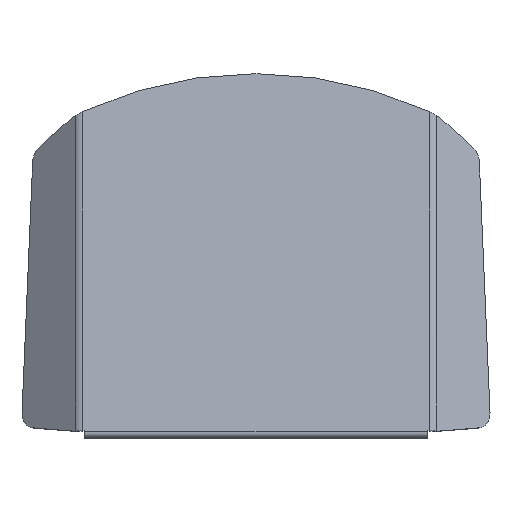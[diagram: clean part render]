
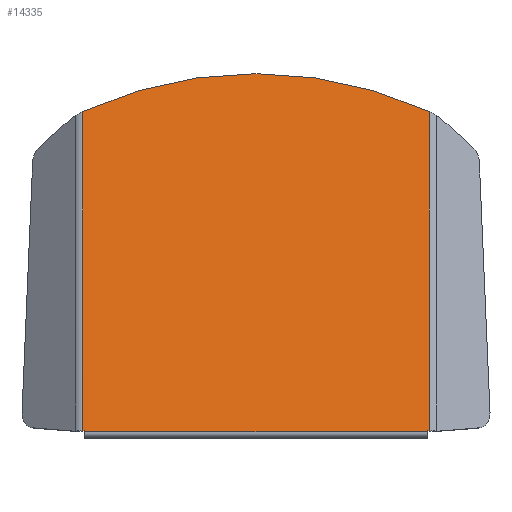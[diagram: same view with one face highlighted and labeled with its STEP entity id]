
A CAD part, front view. The second image highlights one B-rep face of the part: STEP entity #14335.
In plain terms, the highlighted planar face has unit normal (0, -0.985, 0.174).
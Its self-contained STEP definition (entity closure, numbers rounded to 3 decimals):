
#14335=ADVANCED_FACE('',(#60627),#60629,.F.);
#60627=FACE_BOUND('',#60628,.T.);
#60628=EDGE_LOOP('',(#68346,#68347,#68348,#68349,#68350,#68351,#68352,#68353));
#60629=PLANE('',#60630);
#60630=AXIS2_PLACEMENT_3D('',#60631,#60632,#60633);
#60631=CARTESIAN_POINT('',(4.,-122.656,3.215));
#60632=DIRECTION('',(0.,0.985,-0.174));
#60633=DIRECTION('',(-1.,0.,0.));
#68346=ORIENTED_EDGE('',*,*,#72266,.F.);
#68347=ORIENTED_EDGE('',*,*,#72246,.F.);
#68348=ORIENTED_EDGE('',*,*,#72248,.F.);
#68349=ORIENTED_EDGE('',*,*,#72267,.T.);
#68350=ORIENTED_EDGE('',*,*,#72254,.F.);
#68351=ORIENTED_EDGE('',*,*,#72268,.F.);
#68352=ORIENTED_EDGE('',*,*,#72260,.F.);
#68353=ORIENTED_EDGE('',*,*,#72262,.F.);
#72246=EDGE_CURVE('',#78398,#78396,#78400,.T.);
#72248=EDGE_CURVE('',#78401,#78398,#78403,.T.);
#72254=EDGE_CURVE('',#78411,#78409,#78413,.T.);
#72260=EDGE_CURVE('',#78421,#78419,#78423,.T.);
#72262=EDGE_CURVE('',#78424,#78421,#78426,.T.);
#72266=EDGE_CURVE('',#78396,#78424,#78432,.T.);
#72267=EDGE_CURVE('',#78401,#78409,#78433,.T.);
#72268=EDGE_CURVE('',#78419,#78411,#78434,.T.);
#78396=VERTEX_POINT('',#117673);
#78398=VERTEX_POINT('',#117677);
#78400=LINE('',#117681,#117682);
#78401=VERTEX_POINT('',#117684);
#78403=LINE('',#117688,#117689);
#78409=VERTEX_POINT('',#117709);
#78411=VERTEX_POINT('',#117713);
#78413=CIRCLE('',#117717,250.);
#78419=VERTEX_POINT('',#117739);
#78421=VERTEX_POINT('',#117743);
#78423=LINE('',#117747,#117748);
#78424=VERTEX_POINT('',#117750);
#78426=LINE('',#117754,#117755);
#78432=LINE('',#117770,#117771);
#78433=LINE('',#117773,#117774);
#78434=LINE('',#117776,#117777);
#117673=CARTESIAN_POINT('',(109.,-122.763,2.608));
#117677=CARTESIAN_POINT('',(109.,-122.656,3.215));
#117681=CARTESIAN_POINT('',(109.,-122.656,3.215));
#117682=VECTOR('',#117683,1.);
#117683=DIRECTION('',(0.,-0.174,-0.985));
#117684=CARTESIAN_POINT('',(110.18,-122.656,3.215));
#117688=CARTESIAN_POINT('',(110.18,-122.656,3.215));
#117689=VECTOR('',#117690,1.);
#117690=DIRECTION('',(-1.,0.,0.));
#117709=CARTESIAN_POINT('',(110.18,-88.216,198.533));
#117713=CARTESIAN_POINT('',(-102.18,-88.216,198.533));
#117717=AXIS2_PLACEMENT_3D('',#117718,#117719,#117720);
#117718=CARTESIAN_POINT('',(4.,-127.518,-24.36));
#117719=DIRECTION('',(0.,0.985,-0.174));
#117720=DIRECTION('',(-0.425,0.157,0.892));
#117739=CARTESIAN_POINT('',(-102.18,-122.656,3.215));
#117743=CARTESIAN_POINT('',(-101.,-122.656,3.215));
#117747=CARTESIAN_POINT('',(-101.,-122.656,3.215));
#117748=VECTOR('',#117749,1.);
#117749=DIRECTION('',(-1.,0.,0.));
#117750=CARTESIAN_POINT('',(-101.,-122.763,2.608));
#117754=CARTESIAN_POINT('',(-101.,-122.763,2.608));
#117755=VECTOR('',#117756,1.);
#117756=DIRECTION('',(0.,0.174,0.985));
#117770=CARTESIAN_POINT('',(109.,-122.763,2.608));
#117771=VECTOR('',#117772,1.);
#117772=DIRECTION('',(-1.,0.,0.));
#117773=CARTESIAN_POINT('',(110.18,-122.656,3.215));
#117774=VECTOR('',#117775,1.);
#117775=DIRECTION('',(0.,0.174,0.985));
#117776=CARTESIAN_POINT('',(-102.18,-122.656,3.215));
#117777=VECTOR('',#117778,1.);
#117778=DIRECTION('',(0.,0.174,0.985));
